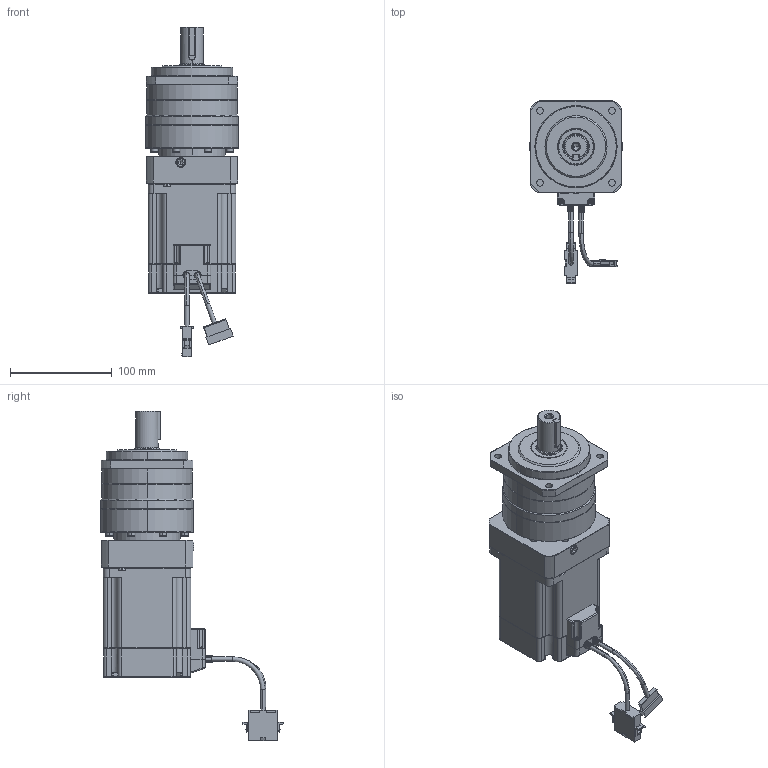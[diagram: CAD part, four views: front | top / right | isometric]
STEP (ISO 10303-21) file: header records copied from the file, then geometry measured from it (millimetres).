
FILE_DESCRIPTION (( 'STEP AP203' ), '1' );
FILE_NAME ('130416 Ezi-SERVO PG-ST-86M-PN3~10.STEP', '2013-04-16T08:33:21', ( '' ), ( '' ), 'SwSTEP 2.0', 'SolidWorks 2012', '' );
FILE_SCHEMA (( 'CONFIG_CONTROL_DESIGN' ));
Length unit declared in the file: metre
Products named in the file (15): 130416 Ezi-SERVO PG-ST-86M-PN3~10; ST86 1ST; MainEzM-86S-assembly-1-1; Mainconnector_e-1-8; MainPower Cable 86-1-4; MainEzM-86S-1-1; MainM3-screw5-1-4; MainM3-screw3-1-4; MainM3-screw2-1-4; MainM3-screw4-1-4; MainM3-screw1-1-4; MainM3-screw6-1-4; Main86_Encoder_Plate-1-4; MainEZSV_86_Encoder_Cover-1-4; MainEZSV_86_cable_Cover-1-4
Assembly tree (14 placements, depth 3):
  130416 Ezi-SERVO PG-ST-86M-PN3~10
    MainEzM-86S-assembly-1-1
      MainEZSV_86_cable_Cover-1-4
      MainEZSV_86_Encoder_Cover-1-4
      Main86_Encoder_Plate-1-4
      MainM3-screw6-1-4
      MainM3-screw1-1-4
      MainM3-screw4-1-4
      MainM3-screw2-1-4
      MainM3-screw3-1-4
      MainM3-screw5-1-4
      MainEzM-86S-1-1
      MainPower Cable 86-1-4
      Mainconnector_e-1-8
    ST86 1ST
Bounding box: 91 x 179.26 x 323 mm (x, y, z)
Volume: 1297786.4 mm3; surface area: 178553.6 mm2
Topology: 13 solids, 13 shells, 1404 faces, 3635 edges, 2291 vertices
Faces by surface type: plane 727, cylinder 440, cone 114, torus 71, bspline 28, sphere 24
Entity records: 45305 total; most frequent: CARTESIAN_POINT 9304, DIRECTION 7376, ORIENTED_EDGE 7086, EDGE_CURVE 3543, AXIS2_PLACEMENT_3D 2695, VERTEX_POINT 2271, LINE 1986, VECTOR 1986
